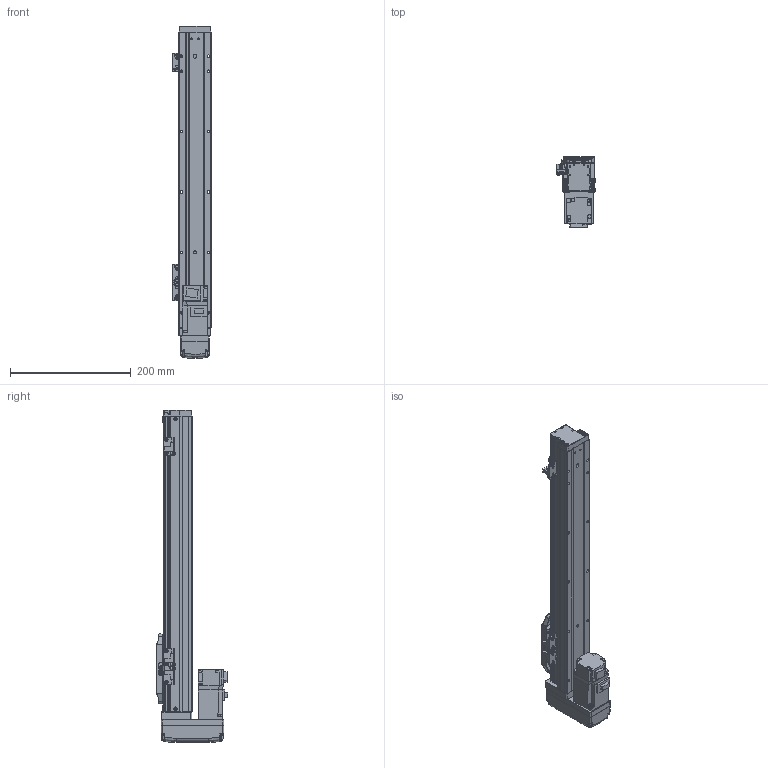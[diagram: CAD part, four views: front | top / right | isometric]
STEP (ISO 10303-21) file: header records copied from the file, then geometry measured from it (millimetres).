
FILE_DESCRIPTION (( 'STEP AP203' ), '1' );
FILE_NAME ('GTH5-350-BM-M10-C4.step', '2022-09-23T00:47:18', ( '微软用户' ), ( '微软中国' ), 'SwSTEP 2.0', 'SolidWorks 2020', '' );
FILE_SCHEMA (( 'CONFIG_CONTROL_DESIGN' ));
Length unit declared in the file: millimetre
Products named in the file (19): GTH50-026; GBT 70.1-M4×16; GTH5-350-BM-M10-C4; GTH50-003; GBT 70.1-M2.5×6; GTH50-006; GTH50-013; GTH50-028; GTH50-004; GTH50-023; GTH50-022-1; GBT 70.3-M3℅6; GBT 70.1-M3℅6; HG-KR13; BTH-M3X5X6; GBT96.1-2002 3×0.8; GTH50-027-1_BTHA50-027-2; GTH50-001_350; GTH50-024
Assembly tree (57 placements, depth 2):
  GTH5-350-BM-M10-C4
    GTH50-006
    GTH50-004
    GBT 70.3-M3℅6  x4
    BTH-M3X5X6  x8
    GTH50-001_350
    GBT 70.1-M4×16  x8
    GTH50-003
    GTH50-013
    GTH50-023  x3
    GBT 70.1-M3℅6  x12
    GBT96.1-2002 3×0.8  x6
    GTH50-024  x3
    GBT 70.1-M2.5×6  x2
    GTH50-028  x2
    GTH50-022-1
    HG-KR13
    GTH50-027-1_BTHA50-027-2
    GTH50-026
Bounding box: 63.8 x 118.9 x 550 mm (x, y, z)
Volume: 1305560 mm3; surface area: 244127.6 mm2
Topology: 59 solids, 59 shells, 2152 faces, 4992 edges, 3060 vertices
Faces by surface type: plane 1142, cylinder 581, cone 219, torus 162, bspline 40, sphere 8
Entity records: 39864 total; most frequent: CARTESIAN_POINT 7899, DIRECTION 6129, ORIENTED_EDGE 5898, EDGE_CURVE 2949, AXIS2_PLACEMENT_3D 2128, LINE 1873, VECTOR 1873, VERTEX_POINT 1862
